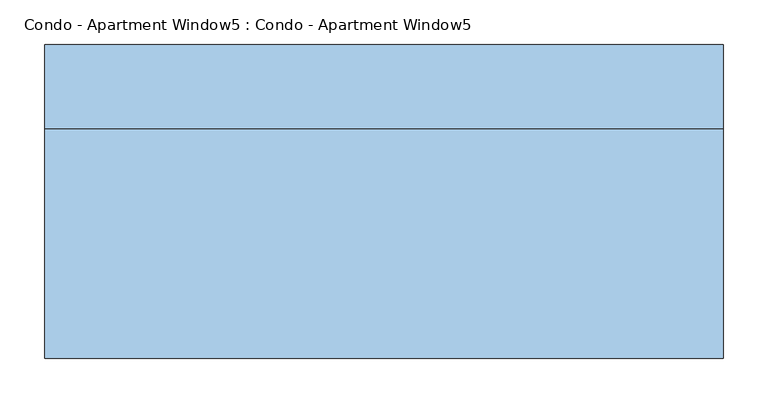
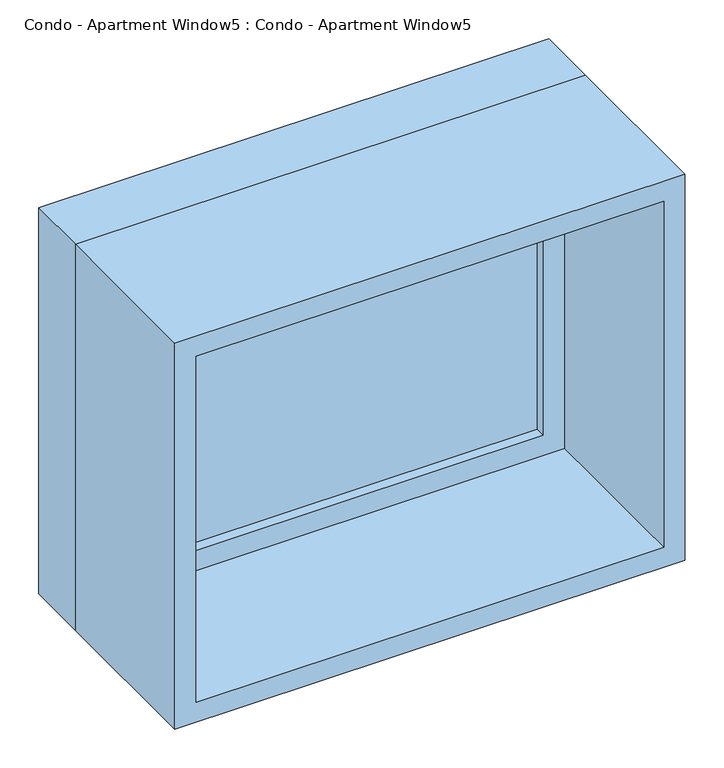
"""IFC4 building model written with IfcOpenShell, lengths in millimetres: window geometry, Condo - Apartment Window5 : Condo - Apartment Window5."""

from ifc_helpers import new_model, si_unit, frame, origin, place, context, project, spatial, polyline, outline, extrude, source, transform, mapped, element, save


def condo_apartment_window5_condo_apartment_window5_5cb7fe43(model_context):
    return source(origin(), model_context, "Body", "SweptSolid", [
        extrude(outline(polyline([(279.4, 96.8375), (-355.6, 96.8375), (-355.6, 109.5375), (279.4, 109.5375), (279.4, 96.8375)])), frame((0.0, 0.0, 1574.8), z_axis=(0.0, 0.0, 1.0), x_axis=(1.0, 0.0, 0.0)), (0.0, 0.0, 1.0), 482.6),
        extrude(outline(polyline([(2101.85, -400.05), (1530.35, -400.05), (1530.35, 323.85), (2101.85, 323.85), (2101.85, -400.05)]), holes=[polyline([(2057.4, -355.6), (2057.4, 279.4), (1574.8, 279.4), (1574.8, -355.6), (2057.4, -355.6)])]), frame((0.0, 80.9625, 0.0), z_axis=(0.0, 1.0, 0.0), x_axis=(0.0, 0.0, 1.0)), (0.0, 0.0, 1.0), 44.45),
        extrude(outline(polyline([(2120.9, -419.1), (1511.3, -419.1), (1511.3, 342.9), (2120.9, 342.9), (2120.9, -419.1)]), holes=[polyline([(2089.15, -387.35), (2089.15, 311.15), (1543.05, 311.15), (1543.05, -387.35), (2089.15, -387.35)])]), frame((0.0, -176.2125, 0.0), z_axis=(0.0, 1.0, 0.0), x_axis=(0.0, 0.0, 1.0)), (0.0, 0.0, 1.0), 257.175),
        extrude(outline(polyline([(2120.9, 342.9), (2120.9, -419.1), (1511.3, -419.1), (1511.3, 342.9), (2120.9, 342.9)]), holes=[polyline([(2101.85, 323.85), (1530.35, 323.85), (1530.35, -400.05), (2101.85, -400.05), (2101.85, 323.85)])]), frame((0.0, 80.9625, 0.0), z_axis=(0.0, 1.0, 0.0), x_axis=(0.0, 0.0, 1.0)), (0.0, 0.0, 1.0), 95.25),
    ])


if __name__ == "__main__":
    model = new_model("IFC4")
    model_context = context("Model", 3, world=origin())
    ifc_project = project(units=[si_unit("LENGTHUNIT", "METRE", prefix="MILLI")], contexts=[model_context])
    site = spatial("IfcSite", under=ifc_project)
    building = spatial("IfcBuilding", under=site)
    placement = place(None, origin())
    condo_apartment_window5_condo_apartment_window5_shape = condo_apartment_window5_condo_apartment_window5_5cb7fe43(model_context)
    element("IfcWindow", 1, ObjectType="Condo - Apartment Window5 : Condo - Apartment Window5", at=placement, inside=building, context=model_context, shape_type="MappedRepresentation", body=[
        mapped(condo_apartment_window5_condo_apartment_window5_shape, transform((0.0, 0.0, 0.0), x_axis=(1.0, 0.0, 0.0), y_axis=(0.0, 1.0, 0.0), z_axis=(0.0, 0.0, 1.0))),
    ])
    save(model, "model.ifc")
